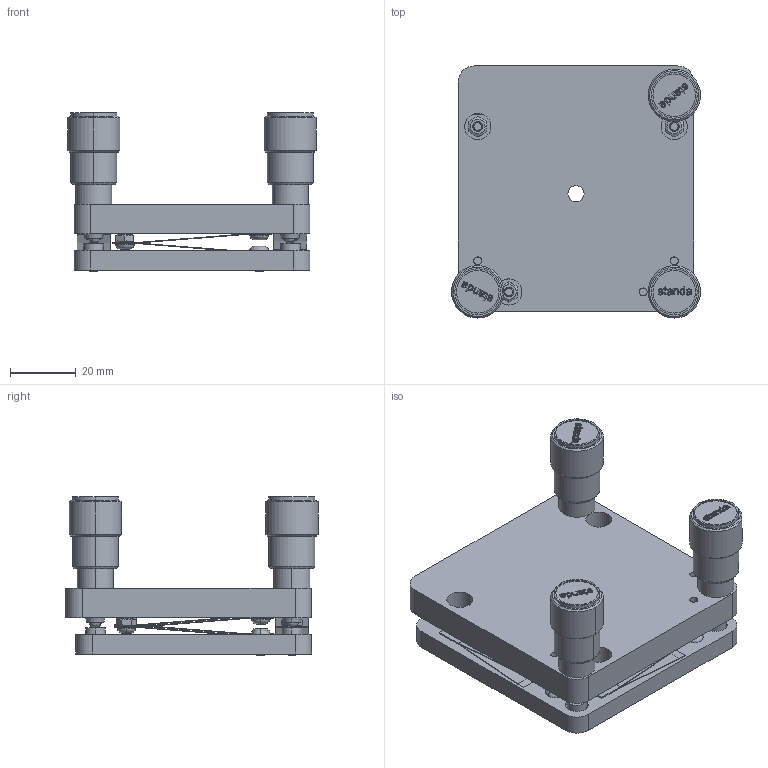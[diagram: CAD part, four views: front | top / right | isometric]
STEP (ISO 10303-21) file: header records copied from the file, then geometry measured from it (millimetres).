
FILE_DESCRIPTION (( 'STEP AP203' ), '1' );
FILE_NAME ('5OM60-3.STEP', '2007-04-11T11:21:06', ( 'STANDA' ), ( '' ), 'SwSTEP 2.0', 'SolidWorks 2003240', '' );
FILE_SCHEMA (( 'CONFIG_CONTROL_DESIGN' ));
Length unit declared in the file: millimetre
Products named in the file (1): 5OM60-3
Bounding box: 76 x 77 x 48.34 mm (x, y, z)
Volume: 88478.3 mm3; surface area: 39948.8 mm2
Topology: 1 solids, 14 shells, 1093 faces, 2816 edges, 1838 vertices
Faces by surface type: plane 422, bspline 355, cylinder 218, cone 98
Entity records: 40677 total; most frequent: CARTESIAN_POINT 16154, ORIENTED_EDGE 5564, DIRECTION 4037, EDGE_CURVE 2782, VERTEX_POINT 1838, VECTOR 1419, LINE 1419, AXIS2_PLACEMENT_3D 1309
